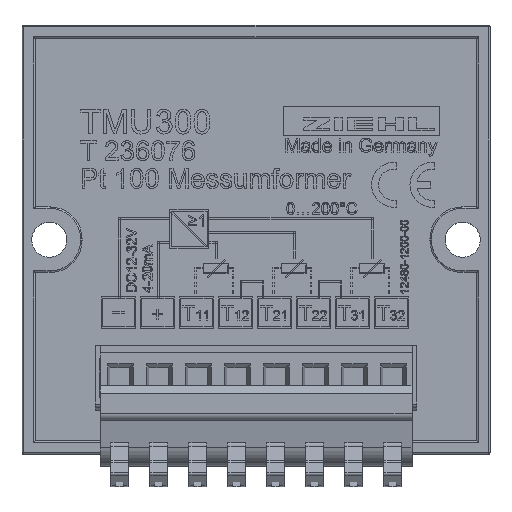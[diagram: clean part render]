
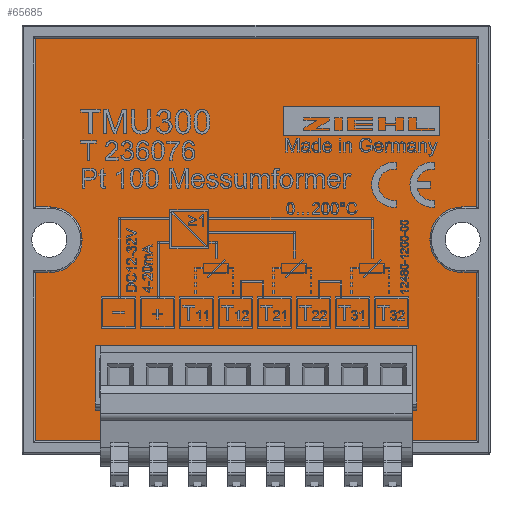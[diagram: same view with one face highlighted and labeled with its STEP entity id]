
A CAD part, top view. The second image highlights one B-rep face of the part: STEP entity #65685.
In plain terms, the highlighted planar face has unit normal (0, 0, 1).
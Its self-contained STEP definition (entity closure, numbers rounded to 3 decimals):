
#58 = AXIS2_PLACEMENT_3D ( 'NONE', #18234, #75918, #51799 ) ;
#223 = EDGE_CURVE ( 'NONE', #81239, #7096, #42096, .T. ) ;
#1024 = LINE ( 'NONE', #40113, #67113 ) ;
#2782 = VECTOR ( 'NONE', #66752, 1000. ) ;
#3081 = DIRECTION ( 'NONE',  ( -1., 0., 0. ) ) ;
#4167 = CARTESIAN_POINT ( 'NONE',  ( -28.3, -4.2, 14.8 ) ) ;
#4411 = ORIENTED_EDGE ( 'NONE', *, *, #34171, .T. ) ;
#4555 = EDGE_CURVE ( 'NONE', #7096, #52981, #78676, .T. ) ;
#4611 = ORIENTED_EDGE ( 'NONE', *, *, #38510, .T. ) ;
#5276 = VECTOR ( 'NONE', #29690, 1000. ) ;
#5814 = DIRECTION ( 'NONE',  ( 0., 0., -1. ) ) ;
#5900 = EDGE_CURVE ( 'NONE', #29539, #15766, #72298, .T. ) ;
#6095 = EDGE_CURVE ( 'NONE', #52981, #16350, #82308, .T. ) ;
#6116 = VECTOR ( 'NONE', #23691, 1000. ) ;
#6322 = DIRECTION ( 'NONE',  ( 0., -1., 0. ) ) ;
#7096 = VERTEX_POINT ( 'NONE', #14518 ) ;
#7440 = CARTESIAN_POINT ( 'NONE',  ( 28.3, -25.8, 14.8 ) ) ;
#7585 = ORIENTED_EDGE ( 'NONE', *, *, #4555, .T. ) ;
#7944 = EDGE_CURVE ( 'NONE', #82473, #59461, #9730, .T. ) ;
#9730 = LINE ( 'NONE', #67324, #34883 ) ;
#9937 = CARTESIAN_POINT ( 'NONE',  ( 26.4, 4.2, 14.8 ) ) ;
#10715 = CARTESIAN_POINT ( 'NONE',  ( 22.3, -0.1, 14.8 ) ) ;
#13733 = EDGE_CURVE ( 'NONE', #54622, #59150, #48115, .T. ) ;
#14518 = CARTESIAN_POINT ( 'NONE',  ( 26.4, -4.2, 14.8 ) ) ;
#15766 = VERTEX_POINT ( 'NONE', #7440 ) ;
#16350 = VERTEX_POINT ( 'NONE', #42298 ) ;
#17043 = EDGE_CURVE ( 'NONE', #46598, #29539, #80643, .T. ) ;
#18234 = CARTESIAN_POINT ( 'NONE',  ( 26.4, 0.1, 14.8 ) ) ;
#18351 = CARTESIAN_POINT ( 'NONE',  ( 28.3, 0.1, 14.8 ) ) ;
#18668 = CARTESIAN_POINT ( 'NONE',  ( 26.4, -0.1, 14.8 ) ) ;
#19364 = DIRECTION ( 'NONE',  ( 0., -1., 0. ) ) ;
#19787 = LINE ( 'NONE', #9937, #2782 ) ;
#20554 = ORIENTED_EDGE ( 'NONE', *, *, #30977, .T. ) ;
#21026 = CARTESIAN_POINT ( 'NONE',  ( -28.3, 4.2, 14.8 ) ) ;
#21202 = DIRECTION ( 'NONE',  ( 0., 1., 0. ) ) ;
#21753 = ORIENTED_EDGE ( 'NONE', *, *, #42755, .T. ) ;
#23691 = DIRECTION ( 'NONE',  ( 0., 1., 0. ) ) ;
#25779 = ORIENTED_EDGE ( 'NONE', *, *, #17043, .T. ) ;
#26569 = DIRECTION ( 'NONE',  ( 1., 0., 0. ) ) ;
#26708 = DIRECTION ( 'NONE',  ( 1., 0., 0. ) ) ;
#28521 = CARTESIAN_POINT ( 'NONE',  ( 26.4, -4.2, 14.8 ) ) ;
#28712 = ORIENTED_EDGE ( 'NONE', *, *, #75656, .T. ) ;
#29209 = ORIENTED_EDGE ( 'NONE', *, *, #75887, .T. ) ;
#29213 = DIRECTION ( 'NONE',  ( 0., 0., -1. ) ) ;
#29539 = VERTEX_POINT ( 'NONE', #47778 ) ;
#29690 = DIRECTION ( 'NONE',  ( -1., 0., 0. ) ) ;
#30104 = VERTEX_POINT ( 'NONE', #62733 ) ;
#30253 = DIRECTION ( 'NONE',  ( 1., 0., 0. ) ) ;
#30716 = DIRECTION ( 'NONE',  ( 1., 0., 0. ) ) ;
#30977 = EDGE_CURVE ( 'NONE', #59461, #31288, #41778, .T. ) ;
#31268 = LINE ( 'NONE', #62666, #5276 ) ;
#31288 = VERTEX_POINT ( 'NONE', #56509 ) ;
#31599 = CARTESIAN_POINT ( 'NONE',  ( -26.4, -4.2, 14.8 ) ) ;
#34092 = CARTESIAN_POINT ( 'NONE',  ( 28.3, 25.8, 14.8 ) ) ;
#34171 = EDGE_CURVE ( 'NONE', #64036, #54622, #42256, .T. ) ;
#34883 = VECTOR ( 'NONE', #80782, 1000. ) ;
#37280 = VECTOR ( 'NONE', #79616, 1000. ) ;
#38051 = DIRECTION ( 'NONE',  ( 0., 0., -1. ) ) ;
#38210 = CARTESIAN_POINT ( 'NONE',  ( -28.3, 0.1, 14.8 ) ) ;
#38510 = EDGE_CURVE ( 'NONE', #16350, #77666, #49681, .T. ) ;
#39460 = CARTESIAN_POINT ( 'NONE',  ( 26.4, 4.2, 14.8 ) ) ;
#39586 = ORIENTED_EDGE ( 'NONE', *, *, #13733, .T. ) ;
#40113 = CARTESIAN_POINT ( 'NONE',  ( 26.4, 4.2, 14.8 ) ) ;
#40265 = VECTOR ( 'NONE', #26569, 1000. ) ;
#40375 = FACE_OUTER_BOUND ( 'NONE', #75757, .T. ) ;
#41778 = LINE ( 'NONE', #67813, #60768 ) ;
#42096 = LINE ( 'NONE', #28521, #51080 ) ;
#42256 = LINE ( 'NONE', #47700, #37280 ) ;
#42298 = CARTESIAN_POINT ( 'NONE',  ( 22.3, 0.1, 14.8 ) ) ;
#42540 = EDGE_CURVE ( 'NONE', #30104, #64036, #51915, .T. ) ;
#42755 = EDGE_CURVE ( 'NONE', #76395, #30104, #19787, .T. ) ;
#43331 = ORIENTED_EDGE ( 'NONE', *, *, #6095, .T. ) ;
#43492 = EDGE_CURVE ( 'NONE', #59150, #46598, #31268, .T. ) ;
#46146 = AXIS2_PLACEMENT_3D ( 'NONE', #67569, #29213, #79632 ) ;
#46394 = ORIENTED_EDGE ( 'NONE', *, *, #43492, .T. ) ;
#46598 = VERTEX_POINT ( 'NONE', #4167 ) ;
#47700 = CARTESIAN_POINT ( 'NONE',  ( -22.3, 0.1, 14.8 ) ) ;
#47778 = CARTESIAN_POINT ( 'NONE',  ( -28.3, -25.8, 14.8 ) ) ;
#48115 = CIRCLE ( 'NONE', #46146, 4.1 ) ;
#49370 = ORIENTED_EDGE ( 'NONE', *, *, #81731, .T. ) ;
#49681 = CIRCLE ( 'NONE', #54535, 4.1 ) ;
#50922 = DIRECTION ( 'NONE',  ( 1., 0., 0. ) ) ;
#51080 = VECTOR ( 'NONE', #3081, 1000. ) ;
#51799 = DIRECTION ( 'NONE',  ( 1., 0., 0. ) ) ;
#51915 = CIRCLE ( 'NONE', #77852, 4.1 ) ;
#52981 = VERTEX_POINT ( 'NONE', #10715 ) ;
#53158 = VECTOR ( 'NONE', #6322, 1000. ) ;
#53831 = ORIENTED_EDGE ( 'NONE', *, *, #5900, .T. ) ;
#54535 = AXIS2_PLACEMENT_3D ( 'NONE', #74782, #61322, #30253 ) ;
#54622 = VERTEX_POINT ( 'NONE', #63083 ) ;
#55188 = LINE ( 'NONE', #38210, #53158 ) ;
#55377 = CARTESIAN_POINT ( 'NONE',  ( 28.3, 4.2, 14.8 ) ) ;
#56019 = DIRECTION ( 'NONE',  ( -1., 0., 0. ) ) ;
#56248 = CARTESIAN_POINT ( 'NONE',  ( -26.4, 0.1, 14.8 ) ) ;
#56509 = CARTESIAN_POINT ( 'NONE',  ( -28.3, 25.8, 14.8 ) ) ;
#57179 = LINE ( 'NONE', #18351, #6116 ) ;
#57708 = CARTESIAN_POINT ( 'NONE',  ( -28.3, 0.1, 14.8 ) ) ;
#59150 = VERTEX_POINT ( 'NONE', #31599 ) ;
#59198 = VECTOR ( 'NONE', #21202, 1000. ) ;
#59461 = VERTEX_POINT ( 'NONE', #34092 ) ;
#59815 = CARTESIAN_POINT ( 'NONE',  ( 22.3, 0.1, 14.8 ) ) ;
#60768 = VECTOR ( 'NONE', #56019, 1000. ) ;
#61322 = DIRECTION ( 'NONE',  ( 0., 0., -1. ) ) ;
#61558 = VECTOR ( 'NONE', #19364, 1000. ) ;
#62666 = CARTESIAN_POINT ( 'NONE',  ( 26.4, -4.2, 14.8 ) ) ;
#62733 = CARTESIAN_POINT ( 'NONE',  ( -26.4, 4.2, 14.8 ) ) ;
#63083 = CARTESIAN_POINT ( 'NONE',  ( -22.3, -0.1, 14.8 ) ) ;
#63260 = ORIENTED_EDGE ( 'NONE', *, *, #7944, .T. ) ;
#64036 = VERTEX_POINT ( 'NONE', #77060 ) ;
#65685 = ADVANCED_FACE ( 'NONE', ( #40375 ), #76180, .T. ) ;
#65715 = ORIENTED_EDGE ( 'NONE', *, *, #42540, .T. ) ;
#66752 = DIRECTION ( 'NONE',  ( 1., 0., 0. ) ) ;
#67083 = CARTESIAN_POINT ( 'NONE',  ( 28.3, -4.2, 14.8 ) ) ;
#67113 = VECTOR ( 'NONE', #26708, 1000. ) ;
#67324 = CARTESIAN_POINT ( 'NONE',  ( 28.3, 0.1, 14.8 ) ) ;
#67569 = CARTESIAN_POINT ( 'NONE',  ( -26.4, -0.1, 14.8 ) ) ;
#67813 = CARTESIAN_POINT ( 'NONE',  ( 26.4, 25.8, 14.8 ) ) ;
#71064 = CARTESIAN_POINT ( 'NONE',  ( 26.4, -25.8, 14.8 ) ) ;
#72298 = LINE ( 'NONE', #71064, #40265 ) ;
#74782 = CARTESIAN_POINT ( 'NONE',  ( 26.4, 0.1, 14.8 ) ) ;
#75656 = EDGE_CURVE ( 'NONE', #15766, #81239, #57179, .T. ) ;
#75757 = EDGE_LOOP ( 'NONE', ( #4611, #49370, #63260, #20554, #29209, #21753, #65715, #4411, #39586, #46394, #25779, #53831, #28712, #76385, #7585, #43331 ) ) ;
#75887 = EDGE_CURVE ( 'NONE', #31288, #76395, #55188, .T. ) ;
#75918 = DIRECTION ( 'NONE',  ( 0., 0., 1. ) ) ;
#76180 = PLANE ( 'NONE',  #58 ) ;
#76385 = ORIENTED_EDGE ( 'NONE', *, *, #223, .T. ) ;
#76395 = VERTEX_POINT ( 'NONE', #21026 ) ;
#77060 = CARTESIAN_POINT ( 'NONE',  ( -22.3, 0.1, 14.8 ) ) ;
#77666 = VERTEX_POINT ( 'NONE', #39460 ) ;
#77852 = AXIS2_PLACEMENT_3D ( 'NONE', #56248, #38051, #50922 ) ;
#78676 = CIRCLE ( 'NONE', #79870, 4.1 ) ;
#79616 = DIRECTION ( 'NONE',  ( 0., -1., 0. ) ) ;
#79632 = DIRECTION ( 'NONE',  ( 1., 0., 0. ) ) ;
#79870 = AXIS2_PLACEMENT_3D ( 'NONE', #18668, #5814, #30716 ) ;
#80643 = LINE ( 'NONE', #57708, #61558 ) ;
#80782 = DIRECTION ( 'NONE',  ( 0., 1., 0. ) ) ;
#81239 = VERTEX_POINT ( 'NONE', #67083 ) ;
#81731 = EDGE_CURVE ( 'NONE', #77666, #82473, #1024, .T. ) ;
#82308 = LINE ( 'NONE', #59815, #59198 ) ;
#82473 = VERTEX_POINT ( 'NONE', #55377 ) ;
